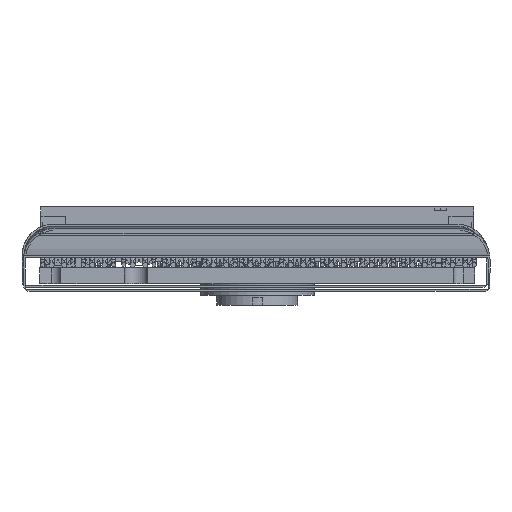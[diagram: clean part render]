
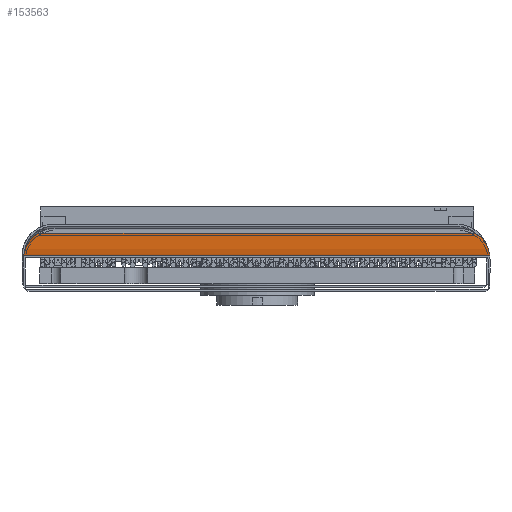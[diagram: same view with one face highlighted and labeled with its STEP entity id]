
A CAD part, front view. The second image highlights one B-rep face of the part: STEP entity #153563.
In plain terms, the highlighted free-form (B-spline) face has degree [3, 1] with [4, 2] control points.
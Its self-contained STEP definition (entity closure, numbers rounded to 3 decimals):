
#153447 = VERTEX_POINT('',#153448);
#153448 = CARTESIAN_POINT('',(23.586,0.,
    0.201));
#153455 = EDGE_CURVE('',#153447,#153456,#153458,.T.);
#153456 = VERTEX_POINT('',#153457);
#153457 = CARTESIAN_POINT('',(0.013,0.,
    0.201));
#153458 = LINE('',#153459,#153460);
#153459 = CARTESIAN_POINT('',(24.829,0.,
    0.201));
#153460 = VECTOR('',#153461,1.);
#153461 = DIRECTION('',(-1.,-0.,-0.));
#153517 = EDGE_CURVE('',#153518,#153520,#153522,.T.);
#153518 = VERTEX_POINT('',#153519);
#153519 = CARTESIAN_POINT('',(22.872,5.989,
    1.34));
#153520 = VERTEX_POINT('',#153521);
#153521 = CARTESIAN_POINT('',(0.727,5.989,
    1.34));
#153522 = LINE('',#153523,#153524);
#153523 = CARTESIAN_POINT('',(24.829,5.989,
    1.34));
#153524 = VECTOR('',#153525,1.);
#153525 = DIRECTION('',(-1.,-0.,-0.));
#153563 = ADVANCED_FACE('',(#153564),#153598,.F.);
#153564 = FACE_BOUND('',#153565,.F.);
#153565 = EDGE_LOOP('',(#153566,#153567,#153582,#153583));
#153566 = ORIENTED_EDGE('',*,*,#153455,.T.);
#153567 = ORIENTED_EDGE('',*,*,#153568,.F.);
#153568 = EDGE_CURVE('',#153520,#153456,#153569,.T.);
#153569 = B_SPLINE_CURVE_WITH_KNOTS('',3,(#153570,#153571,#153572,
    #153573,#153574,#153575,#153576,#153577,#153578,#153579,#153580,
    #153581),.UNSPECIFIED.,.F.,.F.,(4,2,2,2,2,4),(0.,0.001,
    0.002,0.003,0.005,
    0.006),.UNSPECIFIED.);
#153570 = CARTESIAN_POINT('',(0.727,5.989,
    1.34));
#153571 = CARTESIAN_POINT('',(0.601,5.774,
    1.259));
#153572 = CARTESIAN_POINT('',(0.511,5.546,
    1.177));
#153573 = CARTESIAN_POINT('',(0.363,5.077,
    1.02));
#153574 = CARTESIAN_POINT('',(0.306,4.834,
    0.944));
#153575 = CARTESIAN_POINT('',(0.168,4.099,
    0.732));
#153576 = CARTESIAN_POINT('',(0.118,3.598,
    0.611));
#153577 = CARTESIAN_POINT('',(0.051,2.582,
    0.413));
#153578 = CARTESIAN_POINT('',(0.035,2.069,
    0.338));
#153579 = CARTESIAN_POINT('',(0.016,1.037,
    0.233));
#153580 = CARTESIAN_POINT('',(0.013,0.519,
    0.205));
#153581 = CARTESIAN_POINT('',(0.013,0.,
    0.201));
#153582 = ORIENTED_EDGE('',*,*,#153517,.F.);
#153583 = ORIENTED_EDGE('',*,*,#153584,.T.);
#153584 = EDGE_CURVE('',#153518,#153447,#153585,.T.);
#153585 = B_SPLINE_CURVE_WITH_KNOTS('',3,(#153586,#153587,#153588,
    #153589,#153590,#153591,#153592,#153593,#153594,#153595,#153596,
    #153597),.UNSPECIFIED.,.F.,.F.,(4,2,2,2,2,4),(0.,0.001,
    0.002,0.003,0.005,
    0.006),.UNSPECIFIED.);
#153586 = CARTESIAN_POINT('',(22.872,5.989,
    1.34));
#153587 = CARTESIAN_POINT('',(22.997,5.774,
    1.259));
#153588 = CARTESIAN_POINT('',(23.088,5.546,
    1.177));
#153589 = CARTESIAN_POINT('',(23.236,5.077,
    1.02));
#153590 = CARTESIAN_POINT('',(23.293,4.834,
    0.944));
#153591 = CARTESIAN_POINT('',(23.431,4.099,
    0.732));
#153592 = CARTESIAN_POINT('',(23.481,3.598,
    0.611));
#153593 = CARTESIAN_POINT('',(23.548,2.582,
    0.413));
#153594 = CARTESIAN_POINT('',(23.564,2.069,
    0.338));
#153595 = CARTESIAN_POINT('',(23.583,1.037,
    0.233));
#153596 = CARTESIAN_POINT('',(23.586,0.519,
    0.205));
#153597 = CARTESIAN_POINT('',(23.586,0.,
    0.201));
#153598 = B_SPLINE_SURFACE_WITH_KNOTS('',3,1,(
    (#153599,#153600)
    ,(#153601,#153602)
    ,(#153603,#153604)
    ,(#153605,#153606
    )),.UNSPECIFIED.,.F.,.F.,.F.,(4,4),(2,2),(0.095,
    0.957),(0.,1.),.PIECEWISE_BEZIER_KNOTS.);
#153599 = CARTESIAN_POINT('',(23.728,5.989,
    1.34));
#153600 = CARTESIAN_POINT('',(-0.129,5.989,
    1.34));
#153601 = CARTESIAN_POINT('',(23.728,4.031,
    0.599));
#153602 = CARTESIAN_POINT('',(-0.129,4.031,
    0.599));
#153603 = CARTESIAN_POINT('',(23.728,2.031,
    0.219));
#153604 = CARTESIAN_POINT('',(-0.129,2.031,
    0.219));
#153605 = CARTESIAN_POINT('',(23.728,0.,
    0.201));
#153606 = CARTESIAN_POINT('',(-0.129,0.,
    0.201));
